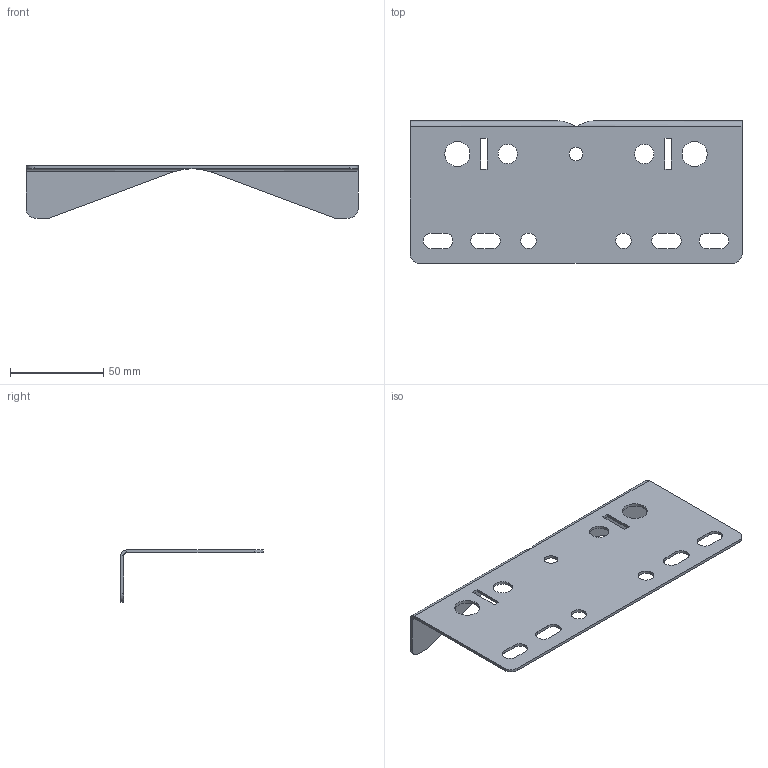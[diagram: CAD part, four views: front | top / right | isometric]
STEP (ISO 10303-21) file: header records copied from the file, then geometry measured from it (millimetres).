
FILE_DESCRIPTION((''),'2;1');
FILE_NAME('SCE-PMJ6T8','2024-02-08T13:03:45',('dougp'),('SAGINAW CONTROL & ENGINEERING'),'CREO PARAMETRIC BY PTC INC, 2021284','CREO PARAMETRIC BY PTC INC, 2021284','');
FILE_SCHEMA(('AUTOMOTIVE_DESIGN { 1 0 10303 214 1 1 1 1 }'));
Length unit declared in the file: inch
Products named in the file (1): SCE-PMJ6T8
Bounding box: 177.8 x 76.2 x 27.94 mm (x, y, z)
Volume: 22382.1 mm3; surface area: 30944.1 mm2
Topology: 1 solids, 1 shells, 65 faces, 180 edges, 117 vertices
Faces by surface type: plane 33, cylinder 30, bspline 2
Entity records: 2879 total; most frequent: CARTESIAN_POINT 475, DIRECTION 363, ORIENTED_EDGE 360, PRESENTATION_STYLE_ASSIGNMENT 181, STYLED_ITEM 181, CURVE_STYLE 180, EDGE_CURVE 180, AXIS2_PLACEMENT_3D 124
